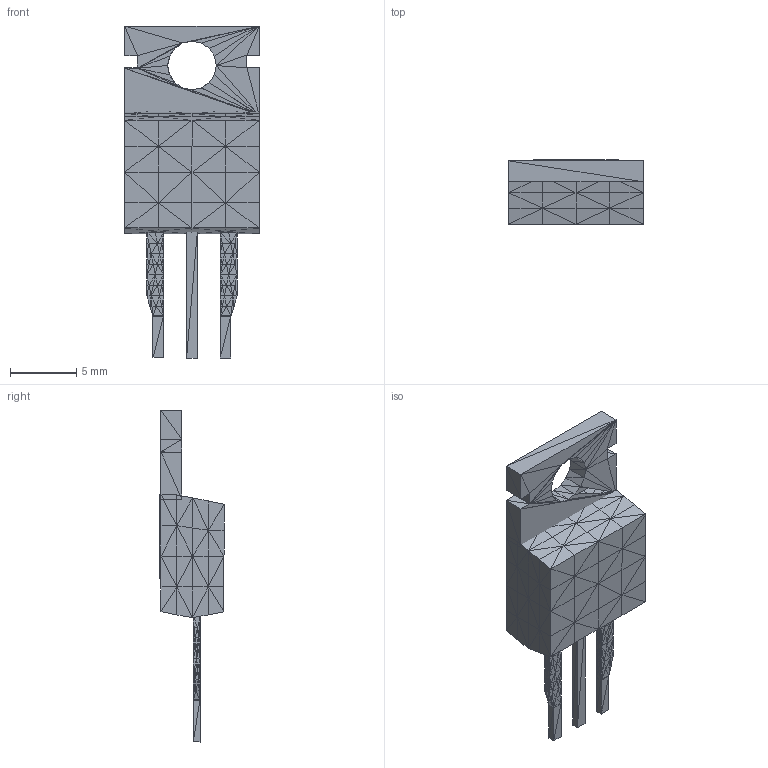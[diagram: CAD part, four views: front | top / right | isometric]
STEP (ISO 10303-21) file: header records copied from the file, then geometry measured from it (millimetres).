
FILE_DESCRIPTION(('HOOPS Exchange Step'),'2;1');
FILE_NAME('***.stp');
FILE_SCHEMA( ('AP242_MANAGED_MODEL_BASED_3D_ENGINEERING_MIM_LF {1 0 10303 442 1 1 4 }') );
Length unit declared in the file: inch
Products named in the file (9): TO-220_2; TO-220_3; TO-220_4; TO-220_5; TO-220_6; TO-220_7; TO-220_8; TO-220_9; TO-220
Assembly tree (8 placements, depth 2):
  TO-220
    TO-220_2
    TO-220_3
    TO-220_4
    TO-220_5
    TO-220_6
    TO-220_7
    TO-220_8
    TO-220_9
Bounding box: 10.16 x 4.87 x 25.08 mm (x, y, z)
Surface area: 1501.6 mm2 (no closed solid volume)
Topology: 0 solids, 1602 shells, 1602 faces, 1692 edges, 1014 vertices
Faces by surface type: plane 1602
Entity records: 29130 total; most frequent: DIRECTION 4932, ORIENTED_EDGE 4806, CARTESIAN_POINT 4326, VECTOR 1692, LINE 1692, EDGE_CURVE 1692, AXIS2_PLACEMENT_3D 1620, PLANE 1602
